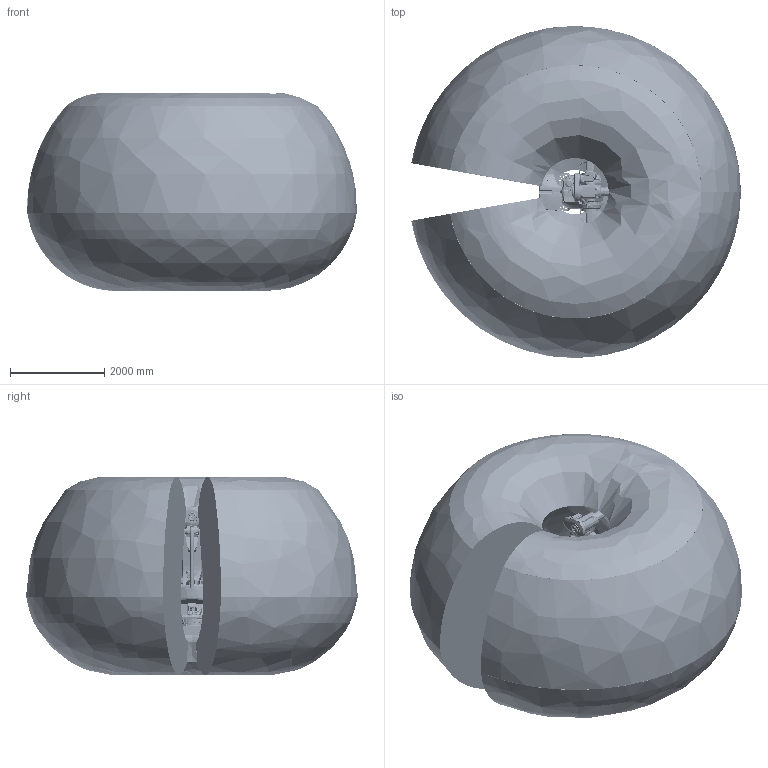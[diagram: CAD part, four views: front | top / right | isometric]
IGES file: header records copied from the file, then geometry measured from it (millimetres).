
Start section: SolidWorks IGES file using analytic representation for surfaces
Global section: file name: B:\DM\Robotics\SEROP_PROJ\Product Development\DevelopmentProjects\Manipulator_Modularity\04. Product Design\06. CAD\Amanda\7720 Lightweight models\IRB7720_450kg-350_OC_00_SW_J\IRB7720_450kg-350_OC_00_ASM_CAD.IGS; native system: SolidWorks 2022; preprocessor: SolidWorks 2022; author: SEAMSTO1; date: 240207.132249; units: millimetre
Bounding box: 6995.68 x 7047.14 x 4198.61 mm (x, y, z)
Surface area: 183601475.3 mm2 (no closed solid volume)
Topology: 0 solids, 0 shells, 8604 faces, 151920 edges, 151759 vertices
Faces by surface type: bspline 4682, revolution 3922
